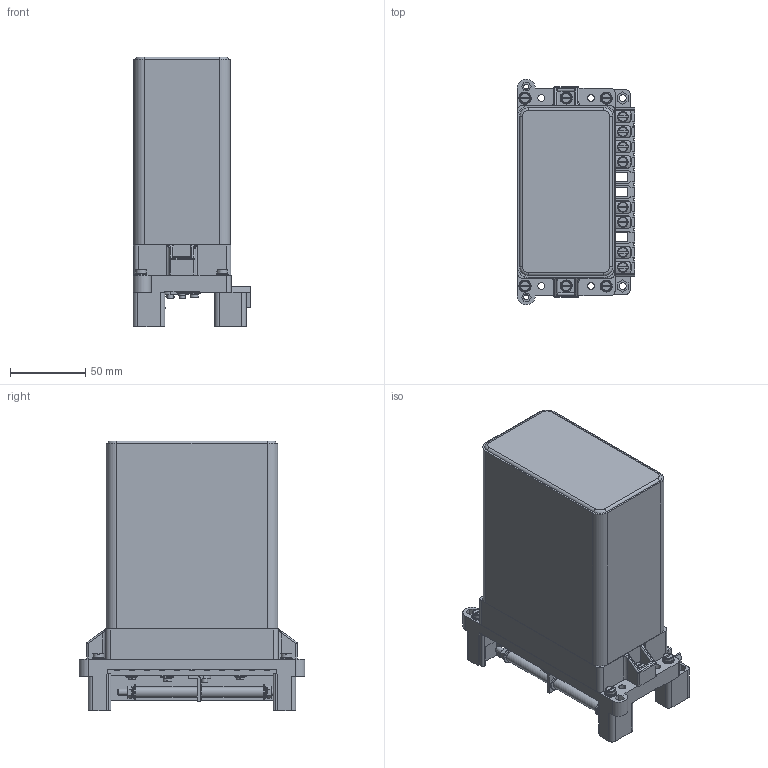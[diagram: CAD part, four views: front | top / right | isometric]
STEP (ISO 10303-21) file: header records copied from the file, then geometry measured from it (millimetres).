
FILE_DESCRIPTION(('STEP AP203'), '1');
FILE_NAME('ÐÑÍ 11, 12, 18 ïåðåäíåå ïðèñîåäèíåíèå', '', ('UNSPECIFIED'), ('UNSPECIFIED'), 'ASCON STEP Converter 1.3', 'ASCON Math Kernel', '');
FILE_SCHEMA(('CONFIG_CONTROL_DESIGN'));
Length unit declared in the file: millimetre
Bounding box: 78.12 x 150 x 179.5 mm (x, y, z)
Volume: 260374.6 mm3; surface area: 202646.4 mm2
Topology: 1 solids, 1 shells, 5590 faces, 15287 edges, 10022 vertices
Faces by surface type: plane 3243, extrusion 1621, cylinder 622, torus 54, cone 38, bspline 12
Full cylindrical faces by diameter (mm): 2 x4, 2.5 x2, 3 x2, 3.2 x2, 3.5 x2, 4 x35, 4.3 x12, 4.5 x31, 5 x2, 5.2 x3, 5.3 x1, 5.5 x4, 7 x2, 8 x14, 9 x2, 10 x3
Entity records: 227235 total; most frequent: CARTESIAN_POINT 47141, ORIENTED_EDGE 30188, DIRECTION 22542, EDGE_CURVE 15094, VECTOR 11576, VERTEX_POINT 10022, LINE 9955, EDGE_LOOP 6314
